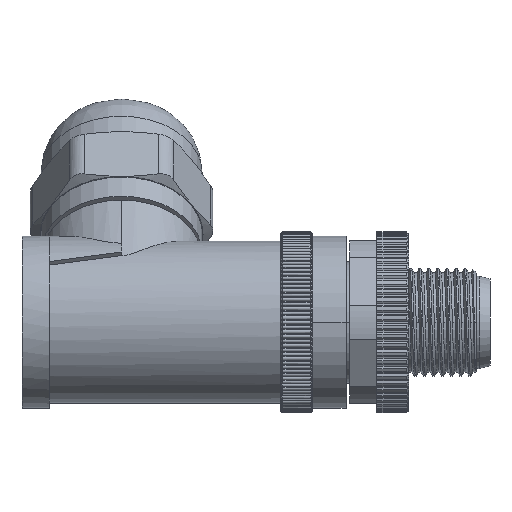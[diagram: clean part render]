
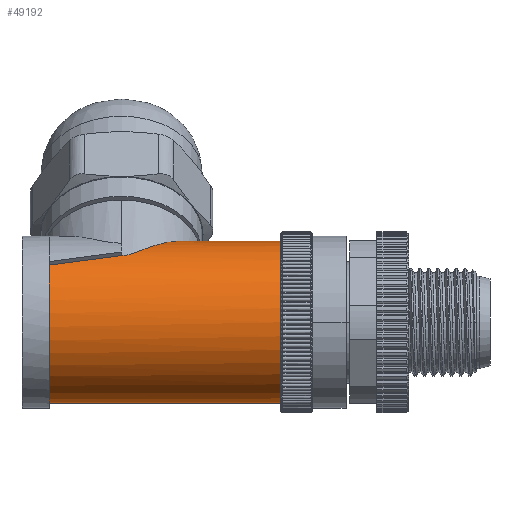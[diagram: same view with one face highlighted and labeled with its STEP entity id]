
A CAD part, left-side view. The second image highlights one B-rep face of the part: STEP entity #49192.
In plain terms, the highlighted cylindrical face has radius 8.95 mm (diameter 17.9 mm), a partial arc.
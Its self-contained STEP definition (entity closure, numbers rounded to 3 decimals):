
#11346=CARTESIAN_POINT('',(0.,16.385,
8.95));
#12261=CARTESIAN_POINT('',(0.,4.9,0.));
#12262=DIRECTION('',(0.,-1.,0.));
#12263=DIRECTION('',(0.,0.,1.));
#12264=AXIS2_PLACEMENT_3D('',#12261,#12262,#12263);
#12266=DIRECTION('',(0.,-1.,0.));
#12267=VECTOR('',#12266,25.6);
#12268=CARTESIAN_POINT('',(0.,30.5,-8.95));
#12269=LINE('',#12268,#12267);
#12270=CARTESIAN_POINT('',(0.,30.5,0.));
#12271=DIRECTION('',(0.,1.,0.));
#12272=DIRECTION('',(0.,0.,-1.));
#12273=AXIS2_PLACEMENT_3D('',#12270,#12271,#12272);
#12275=CARTESIAN_POINT('',(-5.069,22.5,7.376));
#12276=CARTESIAN_POINT('',(-5.524,25.166,
7.063));
#12277=CARTESIAN_POINT('',(-5.944,27.832,
6.713));
#12278=CARTESIAN_POINT('',(-6.329,30.5,6.329));
#12280=CARTESIAN_POINT('',(-5.069,22.5,7.376));
#12281=CARTESIAN_POINT('',(-5.069,22.31,
7.376));
#12282=CARTESIAN_POINT('',(-5.012,21.924,
7.416));
#12283=CARTESIAN_POINT('',(-4.762,21.322,
7.581));
#12284=CARTESIAN_POINT('',(-4.398,20.717,
7.8));
#12285=CARTESIAN_POINT('',(-3.939,20.091,
8.043));
#12286=CARTESIAN_POINT('',(-3.387,19.434,
8.293));
#12287=CARTESIAN_POINT('',(-2.737,18.738,
8.532));
#12288=CARTESIAN_POINT('',(-1.974,17.997,
8.743));
#12289=CARTESIAN_POINT('',(-1.081,17.214,
8.902));
#12290=CARTESIAN_POINT('',(-0.379,16.662,
8.95));
#12291=CARTESIAN_POINT('',(0.,16.385,
8.95));
#12293=DIRECTION('',(0.,-1.,0.));
#12294=VECTOR('',#12293,11.485);
#12295=CARTESIAN_POINT('',(0.,16.385,
8.95));
#12296=LINE('',#12295,#12294);
#35764=VERTEX_POINT('',#11346);
#35771=CARTESIAN_POINT('',(-6.329,30.5,6.329));
#35772=VERTEX_POINT('',#35771);
#35778=CARTESIAN_POINT('',(-5.069,22.5,7.376));
#35780=VERTEX_POINT('',#35778);
#35785=CARTESIAN_POINT('',(0.,30.5,-8.95));
#35786=VERTEX_POINT('',#35785);
#39384=CARTESIAN_POINT('',(0.,4.9,-8.95));
#39385=VERTEX_POINT('',#39384);
#39386=CARTESIAN_POINT('',(0.,4.9,8.95));
#39387=VERTEX_POINT('',#39386);
#49176=CARTESIAN_POINT('',(0.,33.5,0.));
#49177=DIRECTION('',(0.,-1.,0.));
#49178=DIRECTION('',(0.,0.,-1.));
#49179=AXIS2_PLACEMENT_3D('',#49176,#49177,#49178);
#49180=CYLINDRICAL_SURFACE('',#49179,8.95);
#49181=ORIENTED_EDGE('',*,*,#46802,.T.);
#49182=ORIENTED_EDGE('',*,*,#48142,.F.);
#49184=ORIENTED_EDGE('',*,*,#49183,.T.);
#49186=ORIENTED_EDGE('',*,*,#49185,.F.);
#49188=ORIENTED_EDGE('',*,*,#49187,.T.);
#49189=ORIENTED_EDGE('',*,*,#48132,.T.);
#49190=EDGE_LOOP('',(#49181,#49182,#49184,#49186,#49188,#49189));
#49191=FACE_OUTER_BOUND('',#49190,.F.);
#49192=ADVANCED_FACE('',(#49191),#49180,.T.);
#12265=CIRCLE('',#12264,8.95);
#12274=CIRCLE('',#12273,8.95);
#12279=B_SPLINE_CURVE_WITH_KNOTS('',3,(#12275,#12276,#12277,#12278),
.UNSPECIFIED.,.F.,.F.,(4,4),(0.,1.),.UNSPECIFIED.);
#12292=B_SPLINE_CURVE_WITH_KNOTS('',3,(#12280,#12281,#12282,#12283,#12284,
#12285,#12286,#12287,#12288,#12289,#12290,#12291),.UNSPECIFIED.,.F.,.F.,(4,1,1,
1,1,1,1,1,1,4),(0.,0.111,0.222,0.333,
0.444,0.556,0.667,0.778,
0.889,1.),.UNSPECIFIED.);
#46802=EDGE_CURVE('',#39387,#39385,#12265,.T.);
#48132=EDGE_CURVE('',#35764,#39387,#12296,.T.);
#48142=EDGE_CURVE('',#35786,#39385,#12269,.T.);
#49183=EDGE_CURVE('',#35786,#35772,#12274,.T.);
#49185=EDGE_CURVE('',#35780,#35772,#12279,.T.);
#49187=EDGE_CURVE('',#35780,#35764,#12292,.T.);
